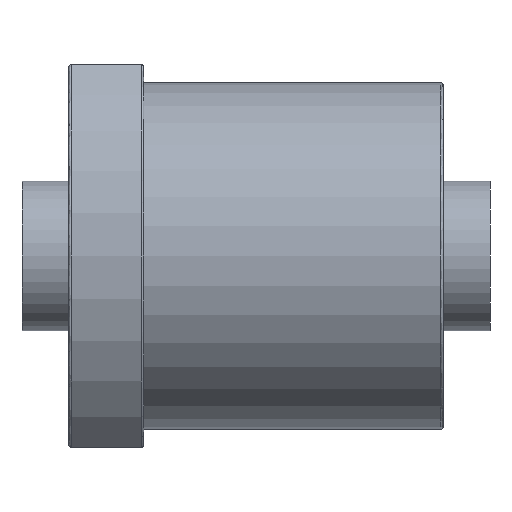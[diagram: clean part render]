
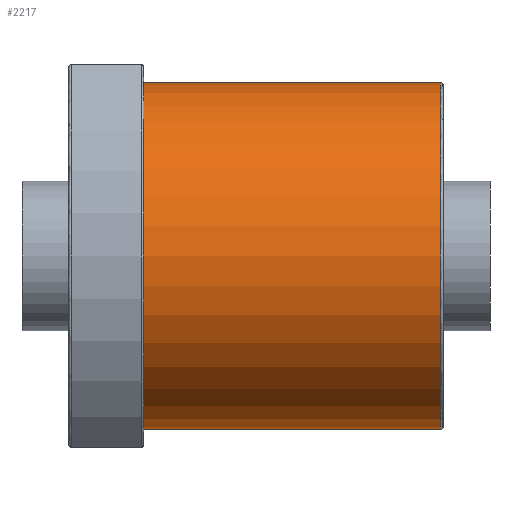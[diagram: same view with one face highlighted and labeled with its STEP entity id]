
A CAD part, front view. The second image highlights one B-rep face of the part: STEP entity #2217.
In plain terms, the highlighted cylindrical face has radius 37 mm (diameter 74 mm), a partial arc.
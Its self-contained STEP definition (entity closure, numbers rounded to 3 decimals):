
#386 = CARTESIAN_POINT ( 'NONE',  ( 79.5, 0., -37. ) ) ;
#631 = CYLINDRICAL_SURFACE ( 'NONE', #4353, 37. ) ;
#829 = DIRECTION ( 'NONE',  ( 0., 0., 1. ) ) ;
#1021 = EDGE_LOOP ( 'NONE', ( #4879, #7960, #5047, #6250 ) ) ;
#1060 = VERTEX_POINT ( 'NONE', #1506 ) ;
#1069 = EDGE_CURVE ( 'NONE', #1060, #6575, #6002, .T. ) ;
#1088 = CARTESIAN_POINT ( 'NONE',  ( 79.5, 0., 0. ) ) ;
#1412 = AXIS2_PLACEMENT_3D ( 'NONE', #1088, #3516, #6048 ) ;
#1506 = CARTESIAN_POINT ( 'NONE',  ( 79.5, 0., 37. ) ) ;
#1530 = CARTESIAN_POINT ( 'NONE',  ( 80., 0., -37. ) ) ;
#2060 = CIRCLE ( 'NONE', #4471, 37. ) ;
#2158 = CARTESIAN_POINT ( 'NONE',  ( 80., 0., 37. ) ) ;
#2182 = DIRECTION ( 'NONE',  ( -1., 0., 0. ) ) ;
#2217 = ADVANCED_FACE ( 'NONE', ( #4953 ), #631, .T. ) ;
#2421 = VERTEX_POINT ( 'NONE', #7236 ) ;
#2732 = VECTOR ( 'NONE', #5835, 1000. ) ;
#3516 = DIRECTION ( 'NONE',  ( -1., 0., 0. ) ) ;
#3700 = LINE ( 'NONE', #1530, #5157 ) ;
#4045 = EDGE_CURVE ( 'NONE', #5685, #2421, #3700, .T. ) ;
#4095 = CIRCLE ( 'NONE', #1412, 37. ) ;
#4206 = EDGE_CURVE ( 'NONE', #5685, #1060, #4095, .T. ) ;
#4353 = AXIS2_PLACEMENT_3D ( 'NONE', #4604, #6447, #4785 ) ;
#4471 = AXIS2_PLACEMENT_3D ( 'NONE', #4501, #4553, #829 ) ;
#4501 = CARTESIAN_POINT ( 'NONE',  ( 16., 0., 0. ) ) ;
#4553 = DIRECTION ( 'NONE',  ( 1., 0., 0. ) ) ;
#4604 = CARTESIAN_POINT ( 'NONE',  ( 80., 0., 0. ) ) ;
#4785 = DIRECTION ( 'NONE',  ( 0., 0., 1. ) ) ;
#4879 = ORIENTED_EDGE ( 'NONE', *, *, #4045, .F. ) ;
#4953 = FACE_OUTER_BOUND ( 'NONE', #1021, .T. ) ;
#5047 = ORIENTED_EDGE ( 'NONE', *, *, #1069, .T. ) ;
#5157 = VECTOR ( 'NONE', #2182, 1000. ) ;
#5500 = EDGE_CURVE ( 'NONE', #6575, #2421, #2060, .T. ) ;
#5685 = VERTEX_POINT ( 'NONE', #386 ) ;
#5835 = DIRECTION ( 'NONE',  ( -1., 0., 0. ) ) ;
#6002 = LINE ( 'NONE', #2158, #2732 ) ;
#6048 = DIRECTION ( 'NONE',  ( 0., 0., 1. ) ) ;
#6250 = ORIENTED_EDGE ( 'NONE', *, *, #5500, .T. ) ;
#6447 = DIRECTION ( 'NONE',  ( -1., 0., 0. ) ) ;
#6575 = VERTEX_POINT ( 'NONE', #7455 ) ;
#7236 = CARTESIAN_POINT ( 'NONE',  ( 16., 0., -37. ) ) ;
#7455 = CARTESIAN_POINT ( 'NONE',  ( 16., 0., 37. ) ) ;
#7960 = ORIENTED_EDGE ( 'NONE', *, *, #4206, .T. ) ;
